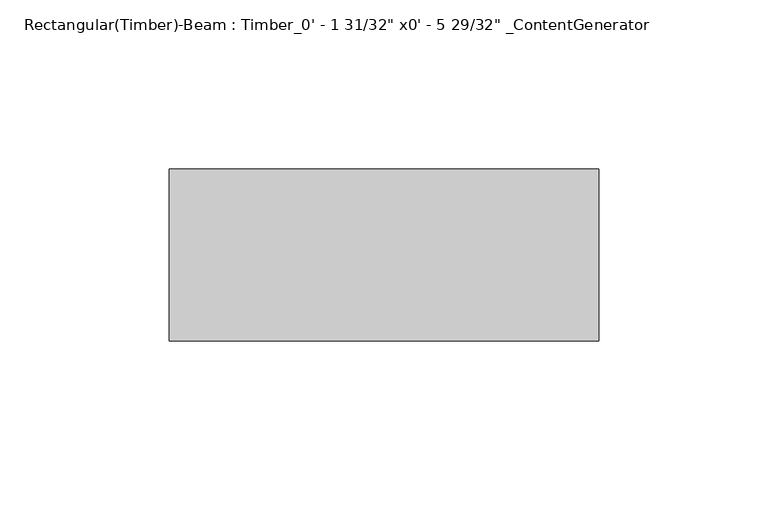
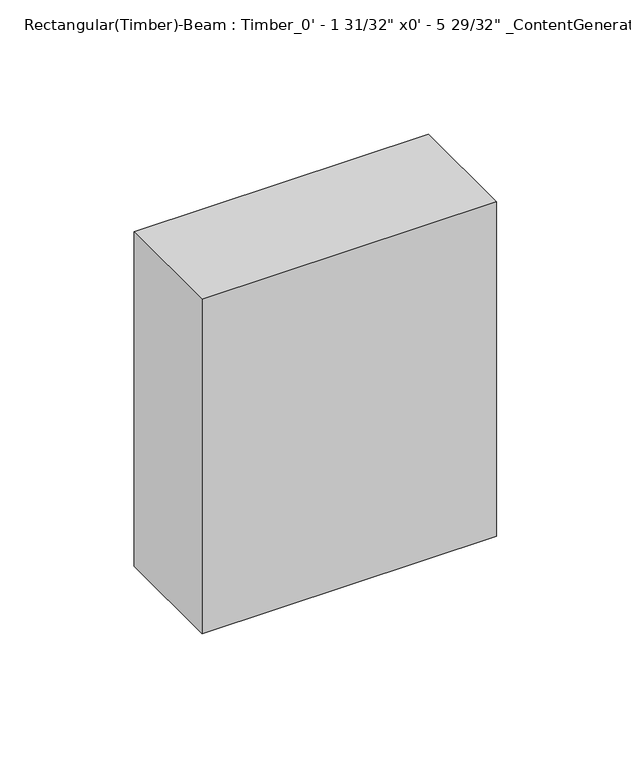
"""IFC4 building model written with IfcOpenShell, lengths in millimetres: beam geometry."""

from ifc_helpers import new_model, si_unit, frame, origin, place, context, project, spatial, polyline, outline, extrude, source, transform, mapped, element, save


def beam_6e875e43(model_context):
    return source(origin(), model_context, "Body", "SweptSolid", [
        extrude(outline(polyline([(76.2049991, 25.4), (76.2049991, -25.4), (-50.8049997, -25.4), (-50.8049997, 25.4), (76.2049991, 25.4)])), frame((0.0, 0.0, -76.2), z_axis=(0.0, 0.0, 1.0), x_axis=(1.0, 0.0, 0.0)), (0.0, 0.0, 1.0), 152.4),
    ])


if __name__ == "__main__":
    model = new_model("IFC4")
    model_context = context("Model", 3, world=origin())
    ifc_project = project(units=[si_unit("LENGTHUNIT", "METRE", prefix="MILLI")], contexts=[model_context])
    site = spatial("IfcSite", under=ifc_project)
    building = spatial("IfcBuilding", under=site)
    placement = place(None, origin())
    beam_shape = beam_6e875e43(model_context)
    element("IfcBeam", 1, ObjectType="Rectangular(Timber)-Beam : Timber_0' - 1 31/32\" x0' - 5 29/32\" _ContentGenerator", at=placement, inside=building, context=model_context, shape_type="MappedRepresentation", body=[
        mapped(beam_shape, transform((0.0, 0.0, 0.0), x_axis=(1.0, 0.0, 0.0), y_axis=(0.0, 1.0, 0.0), z_axis=(0.0, 0.0, 1.0))),
    ])
    save(model, "model.ifc")
